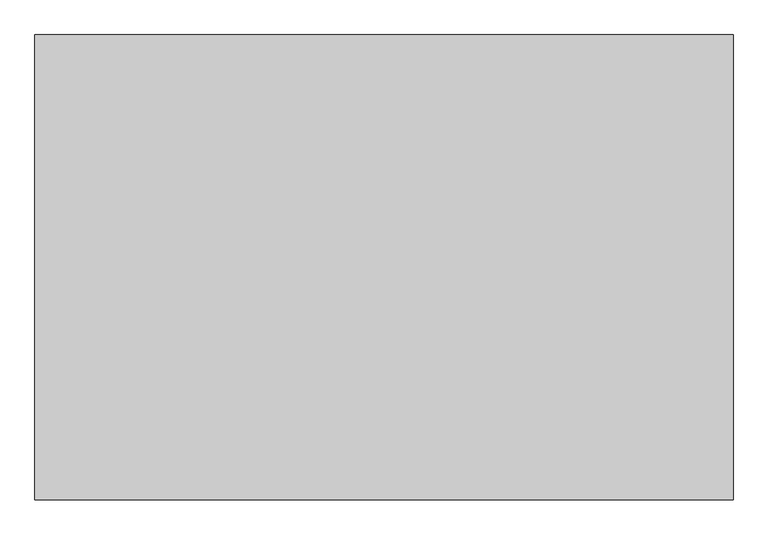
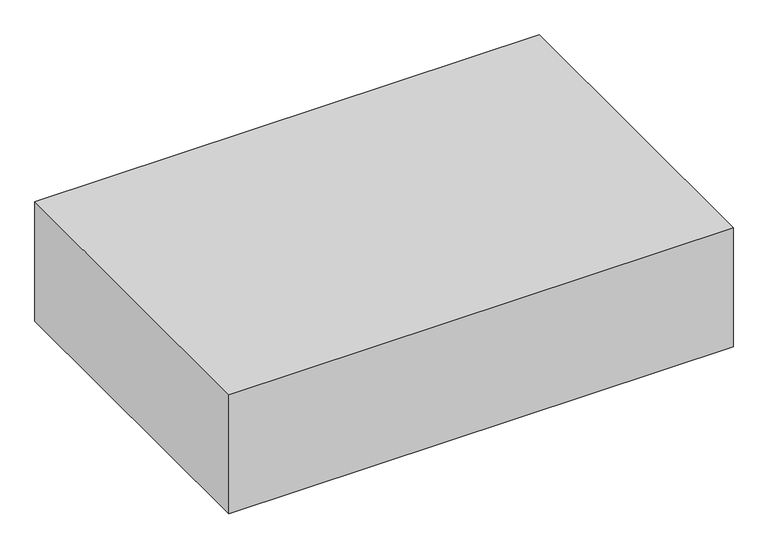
"""IFC4 building model written with IfcOpenShell, lengths in millimetres: proxy geometry, 機械基礎(衛生) : 機械基礎(衛生)."""

from ifc_helpers import new_model, si_unit, origin, origin_with_axes, place, context, project, spatial, polyline, outline, extrude, source, transform, mapped, element, save


def specialty_equipment_edc2f15a(model_context):
    return source(origin(), model_context, "Body", "SweptSolid", [
        extrude(outline(polyline([(550.0, -650.0), (-650.0, -650.0), (-650.0, 150.0), (550.0, 150.0), (550.0, -650.0)])), origin_with_axes(), (0.0, 0.0, 1.0), 300.0),
    ])


if __name__ == "__main__":
    model = new_model("IFC4")
    model_context = context("Model", 3, world=origin())
    ifc_project = project(units=[si_unit("LENGTHUNIT", "METRE", prefix="MILLI")], contexts=[model_context])
    site = spatial("IfcSite", under=ifc_project)
    building = spatial("IfcBuilding", under=site)
    placement = place(None, origin())
    specialty_equipment_shape = specialty_equipment_edc2f15a(model_context)
    element("IfcBuildingElementProxy", 1, Name="機械基礎(衛生) : 機械基礎(衛生)", ObjectType="機械基礎(衛生) : 機械基礎(衛生)", at=placement, inside=building, context=model_context, shape_type="MappedRepresentation", body=[
        mapped(specialty_equipment_shape, transform((0.0, 0.0, 0.0), x_axis=(1.0, 0.0, 0.0), y_axis=(0.0, 1.0, 0.0), z_axis=(0.0, 0.0, 1.0))),
    ])
    save(model, "model.ifc")
